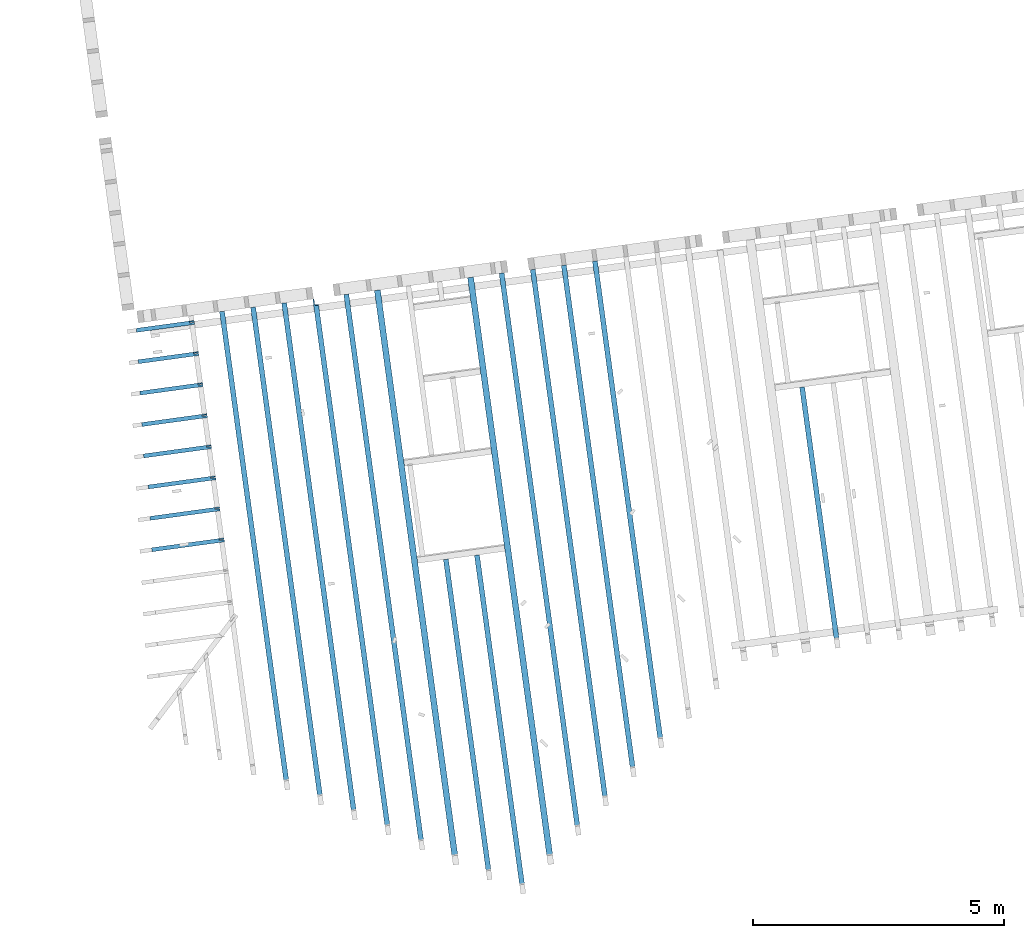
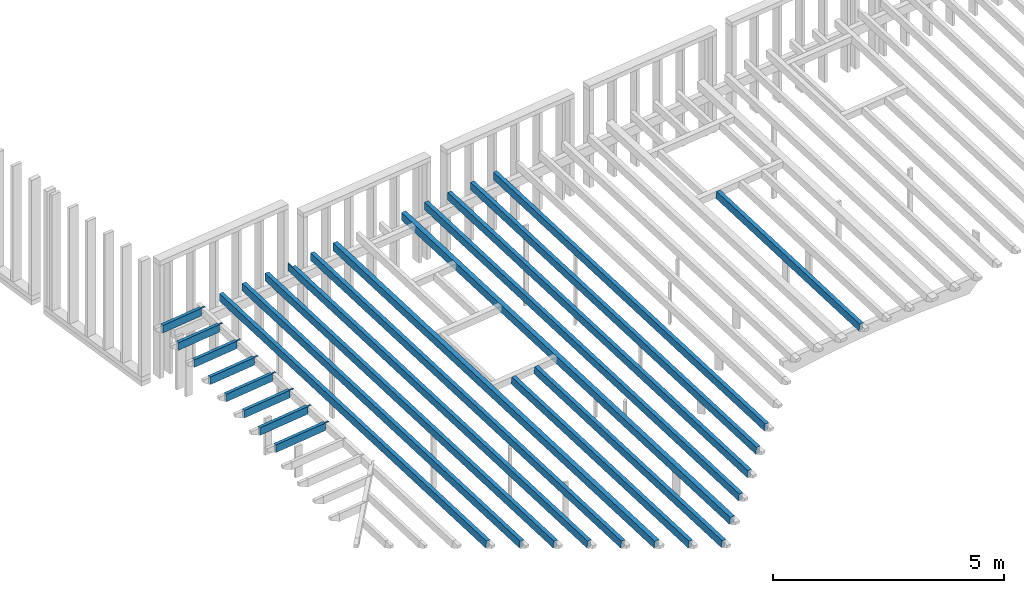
# One storey, part 7 of 16: 22 building element parts, 22 elements without a shape of their own.
"""IFC2X3 building model written with IfcOpenShell, lengths in metres."""

from ifc_helpers import new_model, entity, si_unit, converted_unit, derived_unit, money_unit, direction, frame, origin_with_axes, place, context, subcontext, project, spatial, faceted_brep, material, type_object, element, aggregate, save


model = new_model("IFC2X3")

# Units and contexts
model_context = context("Model", 3, precision=1e-05, world=origin_with_axes(), true_north=direction((0.0, 1.0)))
body_context = subcontext(model_context, "Body", "Model", "MODEL_VIEW")
ifc_project = project(units=[si_unit("LENGTHUNIT", "METRE"), si_unit("AREAUNIT", "SQUARE_METRE"), si_unit("VOLUMEUNIT", "CUBIC_METRE"), converted_unit("PLANEANGLEUNIT", "DEGREE", entity("IfcPlaneAngleMeasure", 0.0174532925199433), si_unit("PLANEANGLEUNIT", "RADIAN"), dimensions=[0, 0, 0, 0, 0, 0, 0]), money_unit("EUR"), converted_unit("TIMEUNIT", "Year", entity("IfcTimeMeasure", 31557600.0), si_unit("TIMEUNIT", "SECOND"), dimensions=[0, 0, 1, 0, 0, 0, 0]), si_unit("MASSUNIT", "GRAM", prefix="KILO"), si_unit("THERMODYNAMICTEMPERATUREUNIT", "DEGREE_CELSIUS"), si_unit("LUMINOUSINTENSITYUNIT", "LUMEN"), si_unit("ENERGYUNIT", "JOULE", prefix="MEGA"), derived_unit("THERMALCONDUCTANCEUNIT", [(si_unit("POWERUNIT", "WATT"), 1), (si_unit("LENGTHUNIT", "METRE"), -1), (si_unit("THERMODYNAMICTEMPERATUREUNIT", "KELVIN"), -1)]), derived_unit("SPECIFICHEATCAPACITYUNIT", [(si_unit("ENERGYUNIT", "JOULE"), 1), (si_unit("MASSUNIT", "GRAM", prefix="KILO"), -1), (si_unit("THERMODYNAMICTEMPERATUREUNIT", "KELVIN"), -1)]), derived_unit("MASSDENSITYUNIT", [(si_unit("MASSUNIT", "GRAM", prefix="KILO"), 1), (si_unit("VOLUMEUNIT", "CUBIC_METRE"), -1)])], contexts=[model_context])

# Site, building, storey
site_placement = place(None, origin_with_axes())
site = spatial("IfcSite", under=ifc_project, at=site_placement, Name="Gelände", CompositionType="ELEMENT")
building_placement = place(site_placement, origin_with_axes())
building = spatial("IfcBuilding", under=site, at=building_placement, Name="Gebäude", CompositionType="ELEMENT")
storey_placement = place(building_placement, frame((0.0, 0.0, 3.0), z_axis=(0.0, 0.0, 1.0), x_axis=(1.0, 0.0, 0.0)))
storey = spatial("IfcBuildingStorey", under=building, at=storey_placement, Name="ZG", CompositionType="ELEMENT", Elevation=3.0)

# Beam, building element part
beam_type_1 = type_object("IfcBeamType", Name="Verschiedene Strukturen - 2 Segmente - 80 x 200 x 1447 (182+1264)", PredefinedType="NOTDEFINED")
beam_1_placement = place(storey_placement, frame((86.62140149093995, -152.5379371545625, 1.629738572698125), z_axis=(0.0, 0.0, 1.0), x_axis=(0.1357118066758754, -0.9907483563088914, 0.0)))
beam_1 = element("IfcBeam", 1, at=beam_1_placement, inside=storey, type_object=beam_type_1, Name="Unterzug-034")
ifc_material = material(Name="Holz, Bauholz-hart")
building_element_part_1_placement = place(beam_1_placement, origin_with_axes())
building_element_part_1 = element("IfcBuildingElementPart", 2, at=building_element_part_1_placement, material=ifc_material, Name="Holz, Bauholz-hart", context=body_context, shape_type="Brep", body=[
    faceted_brep([(0.04000000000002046, 0.1824875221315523, -0.2000000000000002), (0.04000000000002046, 1.346788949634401, -0.2000000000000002), (0.04000000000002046, 1.346788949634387, -0.005621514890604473), (0.03999999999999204, 1.446788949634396, -0.005621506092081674), (0.04000000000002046, 1.44678899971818, 0.0), (0.04000000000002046, 0.1824875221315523, 0.0), (-0.0139844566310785, 1.446788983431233, -0.199999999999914), (-0.0139845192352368, 1.346788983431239, -0.2000000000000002), (-0.03999999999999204, 0.1824875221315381, -0.2000000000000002), (-0.03999999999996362, 1.44678899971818, -0.2000000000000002), (8.431535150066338e-07, 1.346788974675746, 0.0), (-0.03999999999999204, 1.346788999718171, -0.1963437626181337), (-0.03999999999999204, 1.346788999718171, 0.0), (9.057581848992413e-07, 1.446788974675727, 0.0), (-0.03999999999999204, 0.1824875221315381, 0.0), (-0.03999999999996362, 1.44678899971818, -0.1963437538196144)], [[[0, 1, 2, 3, 4, 5]], [[6, 7, 1, 0, 8, 9]], [[10, 2, 1, 7, 11, 12]], [[10, 13, 3, 2]], [[4, 3, 13]], [[13, 10, 12, 14, 5, 4]], [[0, 5, 14, 8]], [[11, 7, 6, 15]], [[12, 11, 15, 9, 8, 14]], [[9, 15, 6]]]),
])
aggregate(beam_1, [building_element_part_1])

beam_type_2 = type_object("IfcBeamType", Name="Verschiedene Strukturen - 2 Segmente - 80 x 200 x 1546 (182+1364)", PredefinedType="NOTDEFINED")
beam_2_placement = place(storey_placement, frame((86.69263476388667, -153.7898522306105, 1.454062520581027), z_axis=(0.0, 0.0, 1.0), x_axis=(0.1357118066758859, -0.9907483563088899, 0.0)))
beam_2 = element("IfcBeam", 3, at=beam_2_placement, inside=storey, type_object=beam_type_2, Name="Unterzug-034")
building_element_part_2_placement = place(beam_2_placement, origin_with_axes())
building_element_part_2 = element("IfcBuildingElementPart", 4, at=building_element_part_2_placement, material=ifc_material, Name="Holz, Bauholz-hart", context=body_context, shape_type="Brep", body=[
    faceted_brep([(0.04000000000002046, 0.1824875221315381, -0.2000000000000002), (0.03999999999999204, 1.446113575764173, -0.2000000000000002), (0.04000000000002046, 1.446113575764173, -0.005621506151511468), (0.03999999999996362, 1.546113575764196, -0.005621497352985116), (0.04000000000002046, 1.546113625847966, 0.0), (0.04000000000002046, 0.1824875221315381, 0.0), (-0.01398439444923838, 1.546113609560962, -0.1999999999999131), (-0.01398445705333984, 1.446113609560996, -0.2000000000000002), (-0.04000000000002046, 0.1824875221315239, -0.2000000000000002), (-0.03999999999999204, 1.54611362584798, -0.2000000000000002), (9.053353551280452e-07, 1.446113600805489, 0.0), (-0.03999999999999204, 1.446113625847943, -0.1963437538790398), (-0.03999999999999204, 1.446113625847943, 0.0), (9.679400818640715e-07, 1.546113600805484, 0.0), (-0.04000000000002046, 0.1824875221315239, 0.0), (-0.03999999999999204, 1.54611362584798, -0.1963437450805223)], [[[0, 1, 2, 3, 4, 5]], [[6, 7, 1, 0, 8, 9]], [[10, 2, 1, 7, 11, 12]], [[10, 13, 3, 2]], [[4, 3, 13]], [[13, 10, 12, 14, 5, 4]], [[0, 5, 14, 8]], [[11, 7, 6, 15]], [[12, 11, 15, 9, 8, 14]], [[9, 15, 6]]]),
])
aggregate(beam_2, [building_element_part_2])

beam_type_3 = type_object("IfcBeamType", Name="Verschiedene Strukturen - 2 Segmente - 100 x 200 x 5298 (183+5116)", PredefinedType="NOTDEFINED")
beam_3_placement = place(storey_placement, frame((100.7094401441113, -157.5921510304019, 0.6572859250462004), z_axis=(0.0, 0.0, 1.0), x_axis=(0.9907484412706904, 0.1357111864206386, 0.0)))
beam_3 = element("IfcBeam", 5, at=beam_3_placement, inside=storey, type_object=beam_type_3, Name="Unterzug-034")
building_element_part_3_placement = place(beam_3_placement, origin_with_axes())
building_element_part_3 = element("IfcBuildingElementPart", 6, at=building_element_part_3_placement, material=ifc_material, Name="Holz, Bauholz-hart", context=body_context, shape_type="Brep", body=[
    faceted_brep([(0.05000000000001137, 0.2085658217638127, -0.1726534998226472), (0.04999999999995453, 5.274560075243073, 0.5393254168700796), (0.04999999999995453, 5.246724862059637, 0.7373789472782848), (0.04999999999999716, 0.180731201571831, 0.02540011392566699), (-0.04999999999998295, 0.2085658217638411, -0.1726534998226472), (-0.05000000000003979, 5.274560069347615, 0.5393254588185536), (-0.05000000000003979, 5.246724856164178, 0.7373789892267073), (-0.04999999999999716, 0.180731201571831, 0.02540011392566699)], [[[0, 1, 2, 3]], [[4, 5, 1, 0]], [[5, 6, 2, 1]], [[3, 2, 6, 7]], [[4, 0, 3, 7]], [[7, 6, 5, 4]]]),
])
aggregate(beam_3, [building_element_part_3])

beam_type_4 = type_object("IfcBeamType", Name="Verschiedene Strukturen - 2 Segmente - 100 x 200 x 9883 (183+9700)", PredefinedType="NOTDEFINED")
beam_4_placement = place(storey_placement, frame((97.19620038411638, -159.5762411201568, 0.4480280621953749), z_axis=(0.0, 0.0, 1.0), x_axis=(0.9907484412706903, 0.1357111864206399, 0.0)))
beam_4 = element("IfcBeam", 7, at=beam_4_placement, inside=storey, type_object=beam_type_4, Name="Unterzug-034")
building_element_part_4_placement = place(beam_4_placement, origin_with_axes())
building_element_part_4 = element("IfcBuildingElementPart", 8, at=building_element_part_4_placement, material=ifc_material, Name="Holz, Bauholz-hart", context=body_context, shape_type="Brep", body=[
    faceted_brep([(-0.05000000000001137, 0.2085613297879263, -0.1726541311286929), (-0.05000000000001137, 9.786576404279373, 1.173448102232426), (0.04999999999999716, 9.786576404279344, 1.173448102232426), (0.04999999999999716, 0.2085613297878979, -0.1726541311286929), (-0.05000000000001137, 0.1807267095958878, 0.02539948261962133), (-0.05000000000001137, 9.786576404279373, 1.37541361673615), (0.04999999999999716, 9.786576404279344, 1.37541361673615), (0.05000000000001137, 0.1807267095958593, 0.02539948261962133)], [[[0, 1, 2, 3]], [[4, 5, 1, 0]], [[2, 1, 5, 6]], [[3, 2, 6, 7]], [[4, 0, 3, 7]], [[7, 6, 5, 4]]]),
])
aggregate(beam_4, [building_element_part_4])

beam_type_5 = type_object("IfcBeamType", Name="Verschiedene Strukturen - 2 Segmente - 100 x 200 x 10390 (183+10207)", PredefinedType="NOTDEFINED")
beam_5_placement = place(storey_placement, frame((96.64511324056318, -160.1584427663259, 0.3774728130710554), z_axis=(0.0, 0.0, 1.0), x_axis=(0.9907484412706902, 0.1357111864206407, 0.0)))
beam_5 = element("IfcBeam", 9, at=beam_5_placement, inside=storey, type_object=beam_type_5, Name="Unterzug-034")
building_element_part_5_placement = place(beam_5_placement, origin_with_axes())
building_element_part_5 = element("IfcBuildingElementPart", 10, at=building_element_part_5_placement, material=ifc_material, Name="Holz, Bauholz-hart", context=body_context, shape_type="Brep", body=[
    faceted_brep([(-0.05000000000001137, 0.208561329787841, -0.1726541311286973), (-0.04999999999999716, 10.28860308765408, 1.244003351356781), (0.04999999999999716, 10.28860308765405, 1.244003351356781), (0.04999999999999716, 0.2085613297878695, -0.1726541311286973), (-0.05000000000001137, 0.1807267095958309, 0.02539948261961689), (-0.04999999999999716, 10.28860308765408, 1.445968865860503), (0.04999999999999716, 10.28860308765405, 1.445968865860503), (0.05000000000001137, 0.1807267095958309, 0.02539948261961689)], [[[0, 1, 2, 3]], [[4, 5, 1, 0]], [[2, 1, 5, 6]], [[3, 2, 6, 7]], [[4, 0, 3, 7]], [[7, 6, 5, 4]]]),
])
aggregate(beam_5, [building_element_part_5])

beam_type_6 = type_object("IfcBeamType", Name="Verschiedene Strukturen - 2 Segmente - 100 x 200 x 10897 (183+10714)", PredefinedType="NOTDEFINED")
beam_6_placement = place(storey_placement, frame((96.09402609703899, -160.7406444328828, 0.306917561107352), z_axis=(0.0, 0.0, 1.0), x_axis=(0.9907484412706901, 0.1357111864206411, 0.0)))
beam_6 = element("IfcBeam", 11, at=beam_6_placement, inside=storey, type_object=beam_type_6, Name="Unterzug-034")
building_element_part_6_placement = place(beam_6_placement, origin_with_axes())
building_element_part_6 = element("IfcBuildingElementPart", 12, at=building_element_part_6_placement, material=ifc_material, Name="Holz, Bauholz-hart", context=body_context, shape_type="Brep", body=[
    faceted_brep([(-0.05000000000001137, 0.208561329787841, -0.1726541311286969), (-0.04999999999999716, 10.79062979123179, 1.31455860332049), (0.04999999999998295, 10.79062979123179, 1.31455860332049), (0.05000000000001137, 0.208561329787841, -0.1726541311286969), (-0.04999999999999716, 0.1807267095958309, 0.02539948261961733), (-0.04999999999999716, 10.79062979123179, 1.516524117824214), (0.04999999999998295, 10.79062979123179, 1.516524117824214), (0.05000000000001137, 0.1807267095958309, 0.02539948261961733)], [[[0, 1, 2, 3]], [[4, 5, 1, 0]], [[2, 1, 5, 6]], [[3, 2, 6, 7]], [[4, 0, 3, 7]], [[7, 6, 5, 4]]]),
])
aggregate(beam_6, [building_element_part_6])

beam_type_7 = type_object("IfcBeamType", Name="Verschiedene Strukturen - 2 Segmente - 100 x 200 x 11416 (183+11234)", PredefinedType="NOTDEFINED")
beam_7_placement = place(storey_placement, frame((95.54293893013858, -161.3228461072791, 0.2363623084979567), z_axis=(0.0, 0.0, 1.0), x_axis=(0.9907484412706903, 0.1357111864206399, 0.0)))
beam_7 = element("IfcBeam", 13, at=beam_7_placement, inside=storey, type_object=beam_type_7, Name="Unterzug-034")
building_element_part_7_placement = place(beam_7_placement, origin_with_axes())
building_element_part_7 = element("IfcBuildingElementPart", 14, at=building_element_part_7_placement, material=ifc_material, Name="Holz, Bauholz-hart", context=body_context, shape_type="Brep", body=[
    faceted_brep([(-0.05000000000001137, 0.2085613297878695, -0.1726541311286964), (-0.04999999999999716, 11.30515649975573, 1.38687061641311), (0.05000000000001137, 11.30515649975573, 1.38687061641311), (0.05000000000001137, 0.2085613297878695, -0.1726541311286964), (-0.04999999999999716, 0.1807267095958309, 0.02539948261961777), (-0.04999999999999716, 11.30515649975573, 1.588836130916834), (0.05000000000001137, 11.30515649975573, 1.588836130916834), (0.05000000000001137, 0.1807267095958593, 0.02539948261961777)], [[[0, 1, 2, 3]], [[4, 5, 1, 0]], [[2, 1, 5, 6]], [[3, 2, 6, 7]], [[4, 0, 3, 7]], [[7, 6, 5, 4]]]),
])
aggregate(beam_7, [building_element_part_7])

beam_type_8 = type_object("IfcBeamType", Name="Verschiedene Strukturen - 2 Segmente - 120 x 200 x 11923 (183+11741)", PredefinedType="NOTDEFINED")
beam_8_placement = place(storey_placement, frame((94.99185178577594, -161.9050477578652, 0.1658070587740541), z_axis=(0.0, 0.0, 1.0), x_axis=(0.9907484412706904, 0.1357111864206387, 0.0)))
beam_8 = element("IfcBeam", 15, at=beam_8_placement, inside=storey, type_object=beam_type_8, Name="Unterzug-034")
building_element_part_8_placement = place(beam_8_placement, origin_with_axes())
building_element_part_8 = element("IfcBuildingElementPart", 16, at=building_element_part_8_placement, material=ifc_material, Name="Holz, Bauholz-hart", context=body_context, shape_type="Brep", body=[
    faceted_brep([(-0.05999999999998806, 0.2085613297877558, -0.1726541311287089), (-0.06000000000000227, 11.80718318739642, 1.45742586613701), (0.06000000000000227, 11.80718318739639, 1.45742586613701), (0.06000000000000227, 0.2085613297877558, -0.1726541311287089), (-0.06000000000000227, 0.1807267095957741, 0.02539948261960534), (-0.06000000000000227, 11.80718318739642, 1.659391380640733), (0.06000000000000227, 11.80718318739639, 1.659391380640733), (0.06000000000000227, 0.1807267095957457, 0.02539948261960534)], [[[0, 1, 2, 3]], [[4, 5, 1, 0]], [[2, 1, 5, 6]], [[3, 2, 6, 7]], [[4, 0, 3, 7]], [[7, 6, 5, 4]]]),
])
aggregate(beam_8, [building_element_part_8])

beam_type_9 = type_object("IfcBeamType", Name="Verschiedene Strukturen - 2 Segmente - 120 x 200 x 11670 (183+11487)", PredefinedType="NOTDEFINED")
beam_9_placement = place(storey_placement, frame((93.10012835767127, -161.9107794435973, 0.2010897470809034), z_axis=(0.0, 0.0, 1.0), x_axis=(0.9907484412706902, 0.135711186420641, 0.0)))
beam_9 = element("IfcBeam", 17, at=beam_9_placement, inside=storey, type_object=beam_type_9, Name="Unterzug-034")
building_element_part_9_placement = place(beam_9_placement, origin_with_axes())
building_element_part_9 = element("IfcBuildingElementPart", 18, at=building_element_part_9_placement, material=ifc_material, Name="Holz, Bauholz-hart", context=body_context, shape_type="Brep", body=[
    faceted_brep([(-0.06000000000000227, 0.2085613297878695, -0.1726541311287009), (-0.06000000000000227, 11.55613381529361, 1.422143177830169), (0.06000000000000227, 11.55613381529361, 1.422143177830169), (0.05999999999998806, 0.208561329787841, -0.1726541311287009), (-0.06000000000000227, 0.1807267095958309, 0.02539948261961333), (-0.06000000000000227, 11.55613381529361, 1.624108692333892), (0.06000000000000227, 11.55613381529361, 1.624108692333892), (0.06000000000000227, 0.1807267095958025, 0.02539948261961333)], [[[0, 1, 2, 3]], [[4, 5, 1, 0]], [[2, 1, 5, 6]], [[3, 2, 6, 7]], [[4, 0, 3, 7]], [[7, 6, 5, 4]]]),
])
aggregate(beam_9, [building_element_part_9])

beam_type_10 = type_object("IfcBeamType", Name="Verschiedene Strukturen - 2 Segmente - 100 x 200 x 11279 (183+11096)", PredefinedType="NOTDEFINED")
beam_10_placement = place(storey_placement, frame((92.42839764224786, -161.6122324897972, 0.2554715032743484), z_axis=(0.0, 0.0, 1.0), x_axis=(0.9907484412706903, 0.1357111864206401, 0.0)))
beam_10 = element("IfcBeam", 19, at=beam_10_placement, inside=storey, type_object=beam_type_10, Name="Unterzug-034")
building_element_part_10_placement = place(beam_10_placement, origin_with_axes())
building_element_part_10 = element("IfcBuildingElementPart", 20, at=building_element_part_10_placement, material=ifc_material, Name="Holz, Bauholz-hart", context=body_context, shape_type="Brep", body=[
    faceted_brep([(-0.04999999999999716, 0.2085613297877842, -0.1726541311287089), (-0.04999999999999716, 11.16918751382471, 1.367761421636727), (0.05000000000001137, 11.16918751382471, 1.367761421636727), (0.05000000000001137, 0.2085613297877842, -0.1726541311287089), (-0.04999999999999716, 0.1807267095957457, 0.02539948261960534), (-0.04999999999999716, 11.16918751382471, 1.569726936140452), (0.05000000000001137, 11.16918751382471, 1.569726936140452), (0.05000000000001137, 0.1807267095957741, 0.02539948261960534)], [[[0, 1, 2, 3]], [[4, 5, 1, 0]], [[2, 1, 5, 6]], [[3, 2, 6, 7]], [[4, 0, 3, 7]], [[7, 6, 5, 4]]]),
])
aggregate(beam_10, [building_element_part_10])

beam_type_11 = type_object("IfcBeamType", Name="Verschiedene Strukturen - 2 Segmente - 100 x 200 x 10888 (183+10706)", PredefinedType="NOTDEFINED")
beam_11_placement = place(storey_placement, frame((91.7566669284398, -161.3136855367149, 0.3098532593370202), z_axis=(0.0, 0.0, 1.0), x_axis=(0.9907484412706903, 0.1357111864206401, 0.0)))
beam_11 = element("IfcBeam", 21, at=beam_11_placement, inside=storey, type_object=beam_type_11, Name="Unterzug-034")
building_element_part_11_placement = place(beam_11_placement, origin_with_axes())
building_element_part_11 = element("IfcBuildingElementPart", 22, at=building_element_part_11_placement, material=ifc_material, Name="Holz, Bauholz-hart", context=body_context, shape_type="Brep", body=[
    faceted_brep([(0.04999999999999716, 10.66424121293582, 1.296795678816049), (0.04999999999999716, 10.64424120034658, 1.296795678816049), (0.05000000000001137, 10.64424120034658, 1.495950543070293), (0.05000000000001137, 0.1807267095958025, 0.02539948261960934), (0.04999999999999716, 0.2085613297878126, -0.1726541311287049), (-0.02382076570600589, 10.66424121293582, 1.296795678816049), (-0.0238207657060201, 10.64424120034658, 1.296795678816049), (-0.0238207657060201, 10.64424120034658, 1.495950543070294), (-0.02382076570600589, 10.78224121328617, 1.515345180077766), (-0.05000000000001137, 10.7822412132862, 1.515345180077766), (-0.05000000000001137, 0.1807267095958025, 0.02539948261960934), (-0.04999999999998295, 0.2085613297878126, -0.1726541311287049), (-0.05000000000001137, 10.7822412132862, 1.313379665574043), (-0.02382076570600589, 10.78224121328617, 1.313379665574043)], [[[0, 1, 2, 3, 4]], [[1, 0, 5, 6]], [[7, 2, 1, 6]], [[7, 8, 9, 10, 3, 2]], [[3, 10, 11, 4]], [[5, 0, 4, 11, 12, 13]], [[8, 7, 6, 5, 13]], [[8, 13, 12, 9]], [[11, 10, 9, 12]]]),
])
aggregate(beam_11, [building_element_part_11])

beam_type_12 = type_object("IfcBeamType", Name="Verschiedene Strukturen - 2 Segmente - 100 x 200 x 10497 (183+10315)", PredefinedType="NOTDEFINED")
beam_12_placement = place(storey_placement, frame((91.08493619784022, -161.0151385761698, 0.3642350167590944), z_axis=(0.0, 0.0, 1.0), x_axis=(0.9907484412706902, 0.1357111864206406, 0.0)))
beam_12 = element("IfcBeam", 23, at=beam_12_placement, inside=storey, type_object=beam_type_12, Name="Unterzug-034")
building_element_part_12_placement = place(beam_12_placement, origin_with_axes())
building_element_part_12 = element("IfcBuildingElementPart", 24, at=building_element_part_12_placement, material=ifc_material, Name="Holz, Bauholz-hart", context=body_context, shape_type="Brep", body=[
    faceted_brep([(-0.05000000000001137, 0.2085613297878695, -0.1726541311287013), (-0.04999999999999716, 10.39529490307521, 1.258997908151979), (0.04999999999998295, 10.39529490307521, 1.258997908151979), (0.05000000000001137, 0.208561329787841, -0.1726541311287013), (-0.04999999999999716, 0.1807267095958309, 0.02539948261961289), (-0.04999999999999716, 10.39529490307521, 1.460963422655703), (0.04999999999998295, 10.39529490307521, 1.460963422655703), (0.04999999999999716, 0.1807267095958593, 0.02539948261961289)], [[[0, 1, 2, 3]], [[4, 5, 1, 0]], [[2, 1, 5, 6]], [[3, 2, 6, 7]], [[4, 0, 3, 7]], [[7, 6, 5, 4]]]),
])
aggregate(beam_12, [building_element_part_12])

beam_type_13 = type_object("IfcBeamType", Name="Verschiedene Strukturen - 2 Segmente - 100 x 200 x 10107 (183+9924)", PredefinedType="NOTDEFINED")
beam_13_placement = place(storey_placement, frame((90.41320547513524, -160.7165916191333, 0.4186167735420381), z_axis=(0.0, 0.0, 1.0), x_axis=(0.9907484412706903, 0.1357111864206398, 0.0)))
beam_13 = element("IfcBeam", 25, at=beam_13_placement, inside=storey, type_object=beam_type_13, Name="Unterzug-034")
building_element_part_13_placement = place(beam_13_placement, origin_with_axes())
building_element_part_13 = element("IfcBuildingElementPart", 26, at=building_element_part_13_placement, material=ifc_material, Name="Holz, Bauholz-hart", context=body_context, shape_type="Brep", body=[
    faceted_brep([(-0.04999999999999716, 0.2085613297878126, -0.1726541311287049), (-0.05000000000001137, 10.00834859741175, 1.204616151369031), (0.05000000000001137, 10.00834859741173, 1.204616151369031), (0.04999999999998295, 0.2085613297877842, -0.1726541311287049), (-0.04999999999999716, 0.1807267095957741, 0.02539948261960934), (-0.05000000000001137, 10.00834859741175, 1.406581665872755), (0.05000000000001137, 10.00834859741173, 1.406581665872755), (0.04999999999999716, 0.1807267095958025, 0.02539948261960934)], [[[0, 1, 2, 3]], [[4, 5, 1, 0]], [[2, 1, 5, 6]], [[3, 2, 6, 7]], [[4, 0, 3, 7]], [[7, 6, 5, 4]]]),
])
aggregate(beam_13, [building_element_part_13])

beam_type_14 = type_object("IfcBeamType", Name="Verschiedene Strukturen - 2 Segmente - 100 x 200 x 9716 (183+9533)", PredefinedType="NOTDEFINED")
beam_14_placement = place(storey_placement, frame((89.74147485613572, -160.4180447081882, 0.4729985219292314), z_axis=(0.0, 0.0, 1.0), x_axis=(0.9907484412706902, 0.1357111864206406, 0.0)))
beam_14 = element("IfcBeam", 27, at=beam_14_placement, inside=storey, type_object=beam_type_14, Name="Unterzug-034")
building_element_part_14_placement = place(beam_14_placement, origin_with_axes())
building_element_part_14 = element("IfcBuildingElementPart", 28, at=building_element_part_14_placement, material=ifc_material, Name="Holz, Bauholz-hart", context=body_context, shape_type="Brep", body=[
    faceted_brep([(-0.04999999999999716, 0.2085613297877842, -0.1726541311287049), (-0.05000000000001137, 9.62140235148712, 1.15023440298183), (0.05000000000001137, 9.62140235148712, 1.15023440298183), (0.04999999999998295, 0.2085613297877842, -0.1726541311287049), (-0.04999999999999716, 0.1807267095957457, 0.02539948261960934), (-0.05000000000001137, 9.62140235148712, 1.352199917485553), (0.05000000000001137, 9.62140235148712, 1.352199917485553), (0.04999999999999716, 0.1807267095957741, 0.02539948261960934)], [[[0, 1, 2, 3]], [[4, 5, 1, 0]], [[2, 1, 5, 6]], [[3, 2, 6, 7]], [[4, 0, 3, 7]], [[7, 6, 5, 4]]]),
])
aggregate(beam_14, [building_element_part_14])

beam_type_15 = type_object("IfcBeamType", Name="Verschiedene Strukturen - 2 Segmente - 100 x 200 x 6506 (183+6323)", PredefinedType="NOTDEFINED")
beam_15_placement = place(storey_placement, frame((93.77185913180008, -162.2093264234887, 0.146707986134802), z_axis=(0.0, 0.0, 1.0), x_axis=(0.9907484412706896, 0.1357111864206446, 0.0)))
beam_15 = element("IfcBeam", 29, at=beam_15_placement, inside=storey, type_object=beam_type_15, Name="Unterzug-034")
building_element_part_15_placement = place(beam_15_placement, origin_with_axes())
building_element_part_15 = element("IfcBuildingElementPart", 30, at=building_element_part_15_placement, material=ifc_material, Name="Holz, Bauholz-hart", context=body_context, shape_type="Brep", body=[
    faceted_brep([(-0.04999999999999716, 0.2085613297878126, -0.1726541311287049), (-0.04999999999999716, 6.47012531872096, 0.7073512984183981), (0.04999999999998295, 6.47012531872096, 0.7073512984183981), (0.04999999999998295, 0.2085613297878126, -0.1726541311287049), (-0.05000000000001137, 0.1807267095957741, 0.02539948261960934), (-0.05000000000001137, 6.442290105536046, 0.9054048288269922), (0.04999999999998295, 6.442290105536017, 0.9054048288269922), (0.04999999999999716, 0.1807267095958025, 0.02539948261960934)], [[[0, 1, 2, 3]], [[4, 5, 1, 0]], [[2, 1, 5, 6]], [[3, 2, 6, 7]], [[4, 0, 3, 7]], [[7, 6, 5, 4]]]),
])
aggregate(beam_15, [building_element_part_15])

beam_type_16 = type_object("IfcBeamType", Name="Verschiedene Strukturen - 2 Segmente - 100 x 200 x 6875 (183+6693)", PredefinedType="NOTDEFINED")
beam_16_placement = place(storey_placement, frame((94.44076402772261, -162.4872441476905, 0.09525255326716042), z_axis=(0.0, 0.0, 1.0), x_axis=(0.99074844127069, 0.1357111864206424, 0.0)))
beam_16 = element("IfcBeam", 31, at=beam_16_placement, inside=storey, type_object=beam_type_16, Name="Unterzug-034")
building_element_part_16_placement = place(beam_16_placement, origin_with_axes())
building_element_part_16 = element("IfcBuildingElementPart", 32, at=building_element_part_16_placement, material=ifc_material, Name="Holz, Bauholz-hart", context=body_context, shape_type="Brep", body=[
    faceted_brep([(0.04999999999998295, 0.2085613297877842, -0.1726541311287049), (-0.04999999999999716, 0.2085613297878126, -0.1726541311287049), (-0.05000000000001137, 6.836250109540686, 0.7588067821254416), (0.04999999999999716, 6.836250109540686, 0.7588067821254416), (0.04999999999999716, 0.1807267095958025, 0.02539948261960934), (-0.04999999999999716, 0.1807267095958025, 0.02539948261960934), (-0.05000000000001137, 6.808414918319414, 0.9568603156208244), (0.04999999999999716, 6.808414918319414, 0.9568603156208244)], [[[0, 1, 2, 3]], [[4, 5, 1, 0]], [[1, 5, 6, 2]], [[7, 3, 2, 6]], [[4, 0, 3, 7]], [[5, 4, 7, 6]]]),
])
aggregate(beam_16, [building_element_part_16])

beam_type_17 = type_object("IfcBeamType", Name="Verschiedene Strukturen - 2 Segmente - 80 x 200 x 1645 (240+1405)", PredefinedType="NOTDEFINED")
beam_17_placement = place(storey_placement, frame((86.76386803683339, -155.0417673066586, 1.278386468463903), z_axis=(0.0, 0.0, 1.0), x_axis=(0.1357118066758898, -0.9907483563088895, 0.0)))
beam_17 = element("IfcBeam", 33, at=beam_17_placement, inside=storey, type_object=beam_type_17, Name="Unterzug-034")
building_element_part_17_placement = place(beam_17_placement, origin_with_axes())
building_element_part_17 = element("IfcBuildingElementPart", 34, at=building_element_part_17_placement, material=ifc_material, Name="Holz, Bauholz-hart", context=body_context, shape_type="Brep", body=[
    faceted_brep([(0.03999999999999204, 0.2400000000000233, -0.2000000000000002), (0.03999999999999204, 1.545438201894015, -0.2000000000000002), (0.03999999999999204, 1.545438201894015, -0.005621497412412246), (0.03999999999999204, 1.645438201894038, -0.005621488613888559), (0.04000000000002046, 1.645438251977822, 0.0), (0.03999999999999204, 0.2400000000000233, 0.0), (-0.01398433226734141, 1.645438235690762, -0.1999999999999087), (-0.01398439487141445, 1.545438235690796, -0.2000000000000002), (-0.04000000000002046, 0.2400000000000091, -0.2000000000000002), (-0.04000000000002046, 1.645438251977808, -0.2000000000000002), (9.675172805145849e-07, 1.545438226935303, 0.0), (-0.04000000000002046, 1.545438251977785, -0.1963437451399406), (-0.04000000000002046, 1.545438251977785, 0.0), (1.030121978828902e-06, 1.645438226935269, 0.0), (-0.04000000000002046, 0.2400000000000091, 0.0), (-0.04000000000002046, 1.645438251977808, -0.1963437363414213)], [[[0, 1, 2, 3, 4, 5]], [[6, 7, 1, 0, 8, 9]], [[10, 2, 1, 7, 11, 12]], [[10, 13, 3, 2]], [[4, 3, 13]], [[13, 10, 12, 14, 5, 4]], [[0, 5, 14, 8]], [[11, 7, 6, 15]], [[12, 11, 15, 9, 8, 14]], [[9, 15, 6]]]),
])
aggregate(beam_17, [building_element_part_17])

beam_type_18 = type_object("IfcBeamType", Name="Verschiedene Strukturen - 2 Segmente - 80 x 200 x 1596 (240+1356)", PredefinedType="NOTDEFINED")
beam_18_placement = place(storey_placement, frame((86.72825140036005, -154.4158097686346, 1.366224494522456), z_axis=(0.0, 0.0, 1.0), x_axis=(0.135711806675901, -0.9907483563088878, 0.0)))
beam_18 = element("IfcBeam", 35, at=beam_18_placement, inside=storey, type_object=beam_type_18, Name="Unterzug-034")
building_element_part_18_placement = place(beam_18_placement, origin_with_axes())
building_element_part_18 = element("IfcBuildingElementPart", 36, at=building_element_part_18_placement, material=ifc_material, Name="Holz, Bauholz-hart", context=body_context, shape_type="Brep", body=[
    faceted_brep([(0.04000000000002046, 0.2399999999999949, -0.2000000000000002), (0.04000000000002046, 1.495775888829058, -0.2000000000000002), (0.04000000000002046, 1.495775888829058, -0.005621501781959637), (0.03999999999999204, 1.595775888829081, -0.005621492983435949), (0.04000000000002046, 1.59577593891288, 0.0), (0.04000000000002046, 0.2399999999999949, 0.0), (-0.01398436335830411, 1.595775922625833, -0.1999999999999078), (-0.01398442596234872, 1.495775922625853, -0.2000000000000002), (-0.03999999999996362, 0.2399999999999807, -0.2000000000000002), (-0.03999999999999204, 1.595775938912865, -0.2000000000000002), (9.364263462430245e-07, 1.495775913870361, 0.0), (-0.03999999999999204, 1.495775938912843, -0.196343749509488), (-0.03999999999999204, 1.495775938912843, 0.0), (9.990310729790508e-07, 1.595775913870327, 0.0), (-0.03999999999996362, 0.2399999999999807, 0.0), (-0.03999999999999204, 1.595775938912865, -0.1963437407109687)], [[[0, 1, 2, 3, 4, 5]], [[6, 7, 1, 0, 8, 9]], [[10, 2, 1, 7, 11, 12]], [[10, 13, 3, 2]], [[4, 3, 13]], [[13, 10, 12, 14, 5, 4]], [[0, 5, 14, 8]], [[11, 7, 6, 15]], [[12, 11, 15, 9, 8, 14]], [[9, 15, 6]]]),
])
aggregate(beam_18, [building_element_part_18])

beam_type_19 = type_object("IfcBeamType", Name="Verschiedene Strukturen - 2 Segmente - 80 x 200 x 1695 (240+1455)", PredefinedType="NOTDEFINED")
beam_19_placement = place(storey_placement, frame((86.79948467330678, -155.6677248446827, 1.190548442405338), z_axis=(0.0, 0.0, 1.0), x_axis=(0.1357118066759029, -0.9907483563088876, 0.0)))
beam_19 = element("IfcBeam", 37, at=beam_19_placement, inside=storey, type_object=beam_type_19, Name="Unterzug-034")
building_element_part_19_placement = place(beam_19_placement, origin_with_axes())
building_element_part_19 = element("IfcBuildingElementPart", 38, at=building_element_part_19_placement, material=ifc_material, Name="Holz, Bauholz-hart", context=body_context, shape_type="Brep", body=[
    faceted_brep([(0.04000000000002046, 0.2400000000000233, -0.2000000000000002), (0.03999999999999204, 1.595100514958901, -0.2000000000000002), (0.03999999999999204, 1.595100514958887, -0.005621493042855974), (0.03999999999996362, 1.695100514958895, -0.005621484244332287), (0.04000000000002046, 1.695100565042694, 0.0), (0.04000000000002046, 0.2400000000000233, 0.0), (-0.01398430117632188, 1.695100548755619, -0.1999999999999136), (-0.01398436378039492, 1.595100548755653, -0.2000000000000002), (-0.04000000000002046, 0.2400000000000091, -0.2000000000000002), (-0.04000000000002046, 1.695100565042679, -0.2000000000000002), (9.986083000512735e-07, 1.595100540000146, 0.0), (-0.04000000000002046, 1.595100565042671, -0.1963437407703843), (-0.04000000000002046, 1.595100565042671, 0.0), (1.0612130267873e-06, 1.695100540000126, 0.0), (-0.04000000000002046, 0.2400000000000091, 0.0), (-0.04000000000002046, 1.695100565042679, -0.1963437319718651)], [[[0, 1, 2, 3, 4, 5]], [[6, 7, 1, 0, 8, 9]], [[10, 2, 1, 7, 11, 12]], [[10, 13, 3, 2]], [[4, 3, 13]], [[13, 10, 12, 14, 5, 4]], [[0, 5, 14, 8]], [[11, 7, 6, 15]], [[12, 11, 15, 9, 8, 14]], [[9, 15, 6]]]),
])
aggregate(beam_19, [building_element_part_19])

beam_type_20 = type_object("IfcBeamType", Name="Verschiedene Strukturen - 2 Segmente - 80 x 200 x 1397 (182+1215)", PredefinedType="NOTDEFINED")
beam_20_placement = place(storey_placement, frame((86.58578485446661, -151.9119796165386, 1.717576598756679), z_axis=(0.0, 0.0, 1.0), x_axis=(0.1357118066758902, -0.9907483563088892, 0.0)))
beam_20 = element("IfcBeam", 39, at=beam_20_placement, inside=storey, type_object=beam_type_20, Name="Unterzug-034")
building_element_part_20_placement = place(beam_20_placement, origin_with_axes())
building_element_part_20 = element("IfcBuildingElementPart", 40, at=building_element_part_20_placement, material=ifc_material, Name="Holz, Bauholz-hart", context=body_context, shape_type="Brep", body=[
    faceted_brep([(0.03999999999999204, 0.1824875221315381, -0.2000000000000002), (0.03999999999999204, 1.297126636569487, -0.2000000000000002), (0.03999999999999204, 1.297126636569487, -0.005621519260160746), (0.03999999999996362, 1.397126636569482, -0.005621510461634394), (0.03999999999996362, 1.397126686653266, 0.0), (0.03999999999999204, 0.1824875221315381, 0.0), (-0.01398448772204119, 1.397126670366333, -0.1999999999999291), (-0.01398455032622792, 1.297126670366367, -0.2000000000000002), (-0.04000000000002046, 0.1824875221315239, -0.2000000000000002), (-0.04000000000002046, 1.397126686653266, -0.2000000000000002), (8.120624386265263e-07, 1.297126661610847, 0.0), (-0.04000000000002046, 1.297126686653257, -0.19634376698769), (-0.04000000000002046, 1.297126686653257, 0.0), (8.746671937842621e-07, 1.397126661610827, 0.0), (-0.04000000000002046, 0.1824875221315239, 0.0), (-0.04000000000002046, 1.397126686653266, -0.1963437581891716)], [[[0, 1, 2, 3, 4, 5]], [[6, 7, 1, 0, 8, 9]], [[10, 2, 1, 7, 11, 12]], [[10, 13, 3, 2]], [[4, 3, 13]], [[13, 10, 12, 14, 5, 4]], [[0, 5, 14, 8]], [[11, 7, 6, 15]], [[12, 11, 15, 9, 8, 14]], [[9, 15, 6]]]),
])
aggregate(beam_20, [building_element_part_20])

beam_type_21 = type_object("IfcBeamType", Name="Verschiedene Strukturen - 2 Segmente - 80 x 200 x 1496 (182+1314)", PredefinedType="NOTDEFINED")
beam_21_placement = place(storey_placement, frame((86.65701812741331, -153.1638946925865, 1.541900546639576), z_axis=(0.0, 0.0, 1.0), x_axis=(0.1357118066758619, -0.9907483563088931, 0.0)))
beam_21 = element("IfcBeam", 41, at=beam_21_placement, inside=storey, type_object=beam_type_21, Name="Unterzug-034")
building_element_part_21_placement = place(beam_21_placement, origin_with_axes())
building_element_part_21 = element("IfcBuildingElementPart", 42, at=building_element_part_21_placement, material=ifc_material, Name="Holz, Bauholz-hart", context=body_context, shape_type="Brep", body=[
    faceted_brep([(0.04000000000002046, 0.1824875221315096, -0.2000000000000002), (0.04000000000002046, 1.396451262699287, -0.2000000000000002), (0.04000000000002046, 1.396451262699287, -0.005621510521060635), (0.03999999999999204, 1.496451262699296, -0.005621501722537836), (0.04000000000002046, 1.496451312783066, 0.0), (0.04000000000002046, 0.1824875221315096, 0.0), (-0.01398442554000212, 1.496451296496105, -0.1999999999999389), (-0.01398448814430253, 1.396451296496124, -0.2000000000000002), (-0.03999999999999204, 0.1824875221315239, -0.2000000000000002), (-0.03999999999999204, 1.496451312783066, -0.2000000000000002), (8.742444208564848e-07, 1.396451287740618, 0.0), (-0.04000000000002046, 1.396451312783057, -0.1963437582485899), (-0.04000000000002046, 1.396451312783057, 0.0), (9.368491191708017e-07, 1.496451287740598, 0.0), (-0.03999999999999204, 0.1824875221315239, 0.0), (-0.03999999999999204, 1.496451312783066, -0.1963437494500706)], [[[0, 1, 2, 3, 4, 5]], [[6, 7, 1, 0, 8, 9]], [[10, 2, 1, 7, 11, 12]], [[10, 13, 3, 2]], [[4, 3, 13]], [[13, 10, 12, 14, 5, 4]], [[0, 5, 14, 8]], [[11, 7, 6, 15]], [[12, 11, 15, 9, 8, 14]], [[9, 15, 6]]]),
])
aggregate(beam_21, [building_element_part_21])

beam_type_22 = type_object("IfcBeamType", Name="Verschiedene Strukturen - 2 Segmente - 80 x 200 x 1347 (182+1165)", PredefinedType="NOTDEFINED")
beam_22_placement = place(storey_placement, frame((86.55016821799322, -151.2860220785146, 1.805414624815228), z_axis=(0.0, 0.0, 1.0), x_axis=(0.1357118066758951, -0.9907483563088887, 0.0)))
beam_22 = element("IfcBeam", 43, at=beam_22_placement, inside=storey, type_object=beam_type_22, Name="Unterzug-034")
building_element_part_22_placement = place(beam_22_placement, origin_with_axes())
building_element_part_22 = element("IfcBuildingElementPart", 44, at=building_element_part_22_placement, material=ifc_material, Name="Holz, Bauholz-hart", context=body_context, shape_type="Brep", body=[
    faceted_brep([(0.04000000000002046, 0.1824875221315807, -0.2000000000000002), (0.04000000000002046, 1.247464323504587, -0.2000000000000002), (0.04000000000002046, 1.247464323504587, -0.00562152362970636), (0.04000000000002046, 1.34746432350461, -0.005621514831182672), (0.04000000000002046, 1.347464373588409, 0.0), (0.04000000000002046, 0.1824875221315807, 0.0), (-0.01398451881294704, 1.347464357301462, -0.1999999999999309), (-0.01398458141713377, 1.247464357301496, -0.2000000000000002), (-0.03999999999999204, 0.1824875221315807, -0.2000000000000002), (-0.03999999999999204, 1.347464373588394, -0.2000000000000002), (7.809715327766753e-07, 1.247464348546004, 0.0), (-0.03999999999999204, 1.247464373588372, -0.1963437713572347), (-0.03999999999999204, 1.247464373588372, 0.0), (8.435762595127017e-07, 1.347464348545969, 0.0), (-0.03999999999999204, 0.1824875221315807, 0.0), (-0.03999999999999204, 1.34746437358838, -0.1963437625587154)], [[[0, 1, 2, 3, 4, 5]], [[6, 7, 1, 0, 8, 9]], [[10, 2, 1, 7, 11, 12]], [[10, 13, 3, 2]], [[4, 3, 13]], [[13, 10, 12, 14, 5, 4]], [[0, 5, 14, 8]], [[11, 7, 6, 15]], [[12, 11, 15, 9, 8, 14]], [[9, 15, 6]]]),
])
aggregate(beam_22, [building_element_part_22])

save(model, "model.ifc")
